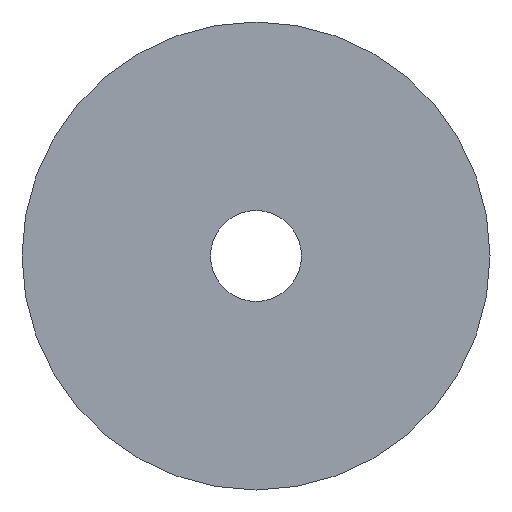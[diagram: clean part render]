
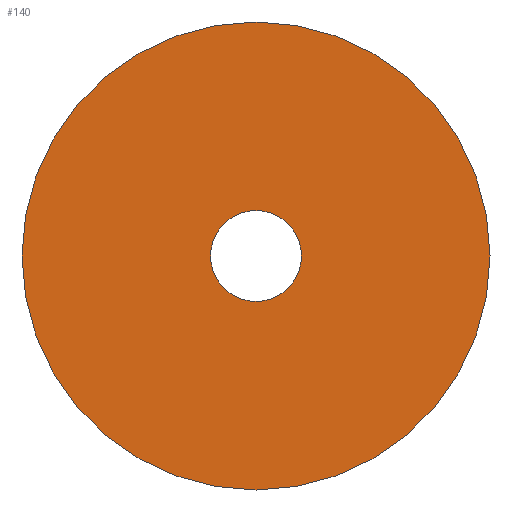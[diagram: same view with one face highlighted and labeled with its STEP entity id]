
A CAD part, left-side view. The second image highlights one B-rep face of the part: STEP entity #140.
In plain terms, the highlighted planar face has unit normal (-1, 0, 0).
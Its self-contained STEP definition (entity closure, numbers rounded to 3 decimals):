
#31 = CYLINDRICAL_SURFACE('',#32,27.);
#32 = AXIS2_PLACEMENT_3D('',#33,#34,#35);
#33 = CARTESIAN_POINT('',(-156.,0.,0.));
#34 = DIRECTION('',(1.,0.,0.));
#35 = DIRECTION('',(-0.,0.,1.));
#56 = VERTEX_POINT('',#57);
#57 = CARTESIAN_POINT('',(-156.,0.,27.));
#78 = EDGE_CURVE('',#56,#56,#79,.T.);
#79 = SURFACE_CURVE('',#80,(#85,#92),.PCURVE_S1.);
#80 = CIRCLE('',#81,27.);
#81 = AXIS2_PLACEMENT_3D('',#82,#83,#84);
#82 = CARTESIAN_POINT('',(-156.,0.,0.));
#83 = DIRECTION('',(1.,0.,0.));
#84 = DIRECTION('',(-0.,0.,1.));
#85 = PCURVE('',#31,#86);
#86 = DEFINITIONAL_REPRESENTATION('',(#87),#91);
#87 = LINE('',#88,#89);
#88 = CARTESIAN_POINT('',(0.,0.));
#89 = VECTOR('',#90,1.);
#90 = DIRECTION('',(1.,0.));
#91 = ( GEOMETRIC_REPRESENTATION_CONTEXT(2) 
PARAMETRIC_REPRESENTATION_CONTEXT() REPRESENTATION_CONTEXT('2D SPACE',''
  ) );
#92 = PCURVE('',#93,#98);
#93 = PLANE('',#94);
#94 = AXIS2_PLACEMENT_3D('',#95,#96,#97);
#95 = CARTESIAN_POINT('',(-156.,0.,0.));
#96 = DIRECTION('',(1.,0.,0.));
#97 = DIRECTION('',(-0.,0.,1.));
#98 = DEFINITIONAL_REPRESENTATION('',(#99),#103);
#99 = CIRCLE('',#100,27.);
#100 = AXIS2_PLACEMENT_2D('',#101,#102);
#101 = CARTESIAN_POINT('',(0.,0.));
#102 = DIRECTION('',(1.,0.));
#103 = ( GEOMETRIC_REPRESENTATION_CONTEXT(2) 
PARAMETRIC_REPRESENTATION_CONTEXT() REPRESENTATION_CONTEXT('2D SPACE',''
  ) );
#129 = CYLINDRICAL_SURFACE('',#130,5.25);
#130 = AXIS2_PLACEMENT_3D('',#131,#132,#133);
#131 = CARTESIAN_POINT('',(-157.,0.,0.));
#132 = DIRECTION('',(1.,0.,0.));
#133 = DIRECTION('',(-0.,0.,1.));
#140 = ADVANCED_FACE('',(#141,#144),#93,.F.);
#141 = FACE_BOUND('',#142,.F.);
#142 = EDGE_LOOP('',(#143));
#143 = ORIENTED_EDGE('',*,*,#78,.T.);
#144 = FACE_BOUND('',#145,.F.);
#145 = EDGE_LOOP('',(#146));
#146 = ORIENTED_EDGE('',*,*,#147,.F.);
#147 = EDGE_CURVE('',#148,#148,#150,.T.);
#148 = VERTEX_POINT('',#149);
#149 = CARTESIAN_POINT('',(-156.,0.,5.25));
#150 = SURFACE_CURVE('',#151,(#156,#163),.PCURVE_S1.);
#151 = CIRCLE('',#152,5.25);
#152 = AXIS2_PLACEMENT_3D('',#153,#154,#155);
#153 = CARTESIAN_POINT('',(-156.,0.,0.));
#154 = DIRECTION('',(1.,0.,0.));
#155 = DIRECTION('',(-0.,0.,1.));
#156 = PCURVE('',#93,#157);
#157 = DEFINITIONAL_REPRESENTATION('',(#158),#162);
#158 = CIRCLE('',#159,5.25);
#159 = AXIS2_PLACEMENT_2D('',#160,#161);
#160 = CARTESIAN_POINT('',(0.,0.));
#161 = DIRECTION('',(1.,0.));
#162 = ( GEOMETRIC_REPRESENTATION_CONTEXT(2) 
PARAMETRIC_REPRESENTATION_CONTEXT() REPRESENTATION_CONTEXT('2D SPACE',''
  ) );
#163 = PCURVE('',#129,#164);
#164 = DEFINITIONAL_REPRESENTATION('',(#165),#169);
#165 = LINE('',#166,#167);
#166 = CARTESIAN_POINT('',(0.,1.));
#167 = VECTOR('',#168,1.);
#168 = DIRECTION('',(1.,0.));
#169 = ( GEOMETRIC_REPRESENTATION_CONTEXT(2) 
PARAMETRIC_REPRESENTATION_CONTEXT() REPRESENTATION_CONTEXT('2D SPACE',''
  ) );
